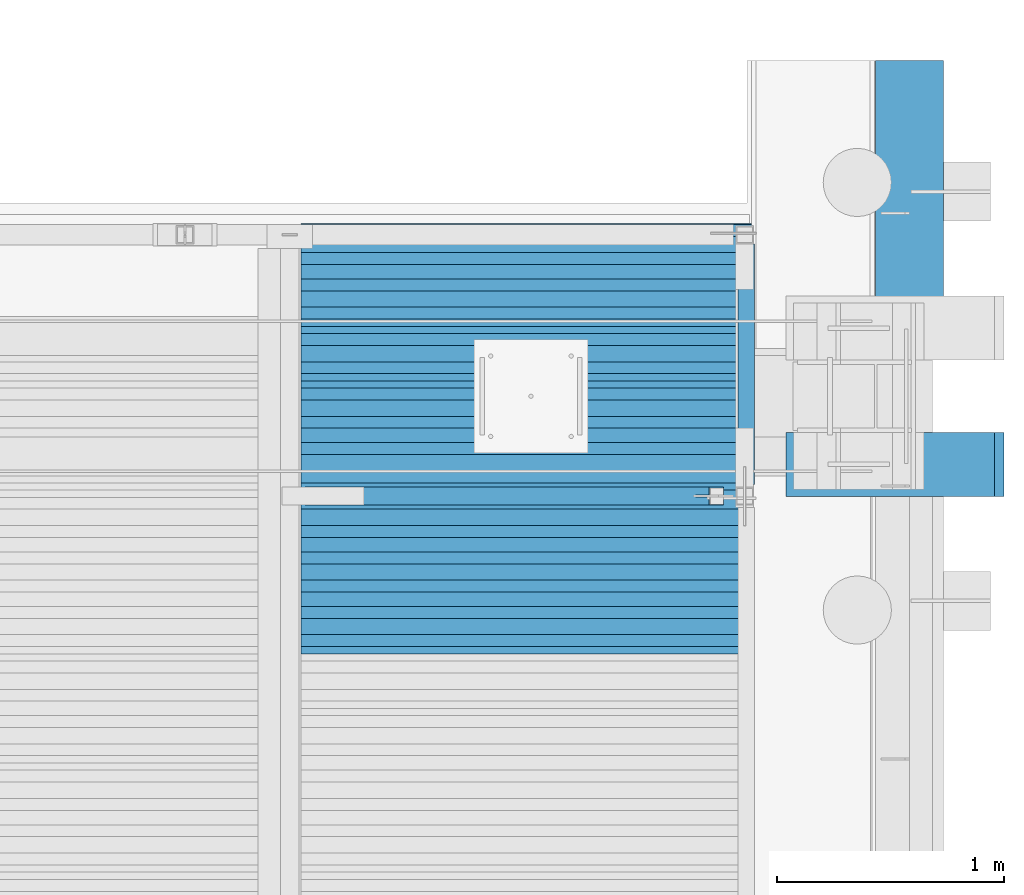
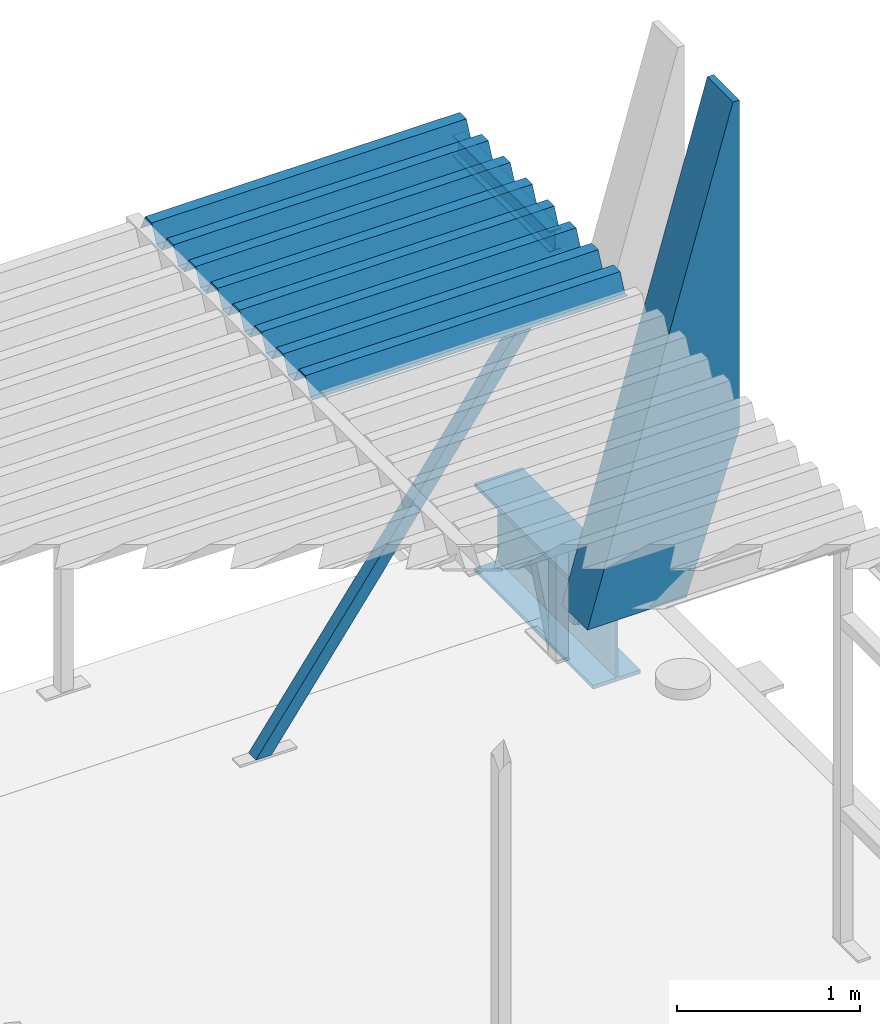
# One storey, part 14 of 30: 7 beams, 1 member.
"""IFC2X3 building model written with IfcOpenShell, lengths in millimetres."""

from ifc_helpers import new_model, entity, si_unit, converted_unit, derived_unit, direction, frame, origin_with_axes, place, context, subcontext, project, spatial, faceted_brep, material, type_object, element, save


model = new_model("IFC2X3")

# Units and contexts
model_context = context("Model", 3, precision=0.01, world=frame((0.0, 4.29681676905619e-09, 0.0)), true_north=direction((4.01073788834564e-13, 1.0)))
plan_context = context("Plan", 3, precision=0.01, world=frame((0.0, 4.29681676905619e-09, 0.0)), true_north=direction((4.01073788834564e-13, 1.0)))
body_context = subcontext(model_context, "Body", "Model", "MODEL_VIEW")
ifc_project = project(units=[converted_unit("PLANEANGLEUNIT", "DEGREE", entity("IfcPositiveLengthMeasure", 0.0174532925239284), si_unit("PLANEANGLEUNIT", "RADIAN"), dimensions=[0, 0, 0, 0, 0, 0, 0]), si_unit("AREAUNIT", "SQUARE_METRE"), si_unit("LENGTHUNIT", "METRE", prefix="MILLI"), si_unit("MASSUNIT", "GRAM", prefix="KILO"), si_unit("POWERUNIT", "WATT"), si_unit("PRESSUREUNIT", "PASCAL"), si_unit("FORCEUNIT", "NEWTON", prefix="KILO"), si_unit("ELECTRICVOLTAGEUNIT", "VOLT"), si_unit("ELECTRICCURRENTUNIT", "AMPERE"), si_unit("THERMODYNAMICTEMPERATUREUNIT", "DEGREE_CELSIUS"), si_unit("TIMEUNIT", "SECOND"), si_unit("VOLUMEUNIT", "CUBIC_METRE"), derived_unit("LINEARVELOCITYUNIT", [(si_unit("LENGTHUNIT", "METRE"), 1), (si_unit("TIMEUNIT", "SECOND"), -1)]), derived_unit("VOLUMETRICFLOWRATEUNIT", [(si_unit("VOLUMEUNIT", "CUBIC_METRE"), 1), (si_unit("TIMEUNIT", "SECOND"), -1)]), derived_unit("THERMALTRANSMITTANCEUNIT", [(si_unit("POWERUNIT", "WATT"), 1), (si_unit("THERMODYNAMICTEMPERATUREUNIT", "KELVIN"), -1), (si_unit("AREAUNIT", "SQUARE_METRE"), -1)]), derived_unit("SOUNDPRESSUREUNIT", [(si_unit("PRESSUREUNIT", "PASCAL"), 1)])], contexts=[model_context, plan_context])

# Site, building, storey
site_placement = place(None, frame((0.0, -4.29681676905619e-09, 0.0), z_axis=(0.0, 0.0, 1.0), x_axis=(1.0, 0.0, 0.0)))
site = spatial("IfcSite", under=ifc_project, at=site_placement, Name="Gardermoen", CompositionType="ELEMENT")
building_placement = place(site_placement, frame((0.0, 4.29681676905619e-09, 0.0), z_axis=(0.0, 0.0, 1.0), x_axis=(1.0, 0.0, 0.0)))
building = spatial("IfcBuilding", under=site, at=building_placement, Name="TI", CompositionType="ELEMENT")
storey_placement = place(building_placement, origin_with_axes())
storey = spatial("IfcBuildingStorey", under=building, at=storey_placement, Name="F", CompositionType="ELEMENT", Elevation=0.0)

# Beams
beam_type_1 = type_object("IfcBeamType", Name="HEA600", PredefinedType="NOTDEFINED")
beam_1_placement = place(storey_placement, frame((612014.999766, 706819.9991, 210385.0), z_axis=(0.0, 0.0, 1.0), x_axis=(0.0, -1.0, 0.0)))
element("IfcBeam", 1, at=beam_1_placement, inside=storey, type_object=beam_type_1, Name="STÅLBJELKE", ObjectType="HEA600", context=body_context, shape_type="Brep", body=[
    faceted_brep([(7344.49910000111, -150.0, -295.0), (7344.49910000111, -150.0, -270.0), (8640.00347499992, -150.0, -270.0), (8640.00347499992, -150.0, -295.0), (7344.49910000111, -6.5, -270.0), (8640.00347499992, -6.5, -270.0), (7344.49910000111, -6.5, 270.0), (8640.00347499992, -6.5, 270.0), (7344.49910000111, -150.0, 270.0), (8640.00347499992, -150.0, 270.0), (7344.49910000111, -150.0, 295.0), (8640.00347499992, -150.0, 295.0), (7344.49910000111, 150.0, 295.0), (8640.00347499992, 150.0, 295.0), (7344.49910000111, 150.0, 270.0), (8640.00347499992, 150.0, 270.0), (7344.49910000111, 6.5, 270.0), (8640.00347499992, 6.5, 270.0), (7344.49910000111, 6.5, -270.0), (8640.00347499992, 6.5, -270.0), (7344.49910000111, 150.0, -270.0), (8640.00347499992, 150.0, -270.0), (7344.49910000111, 150.0, -295.0), (8640.00347499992, 150.0, -295.0)], [[[0, 1, 2, 3]], [[1, 4, 5, 2]], [[4, 6, 7, 5]], [[6, 8, 9, 7]], [[8, 10, 11, 9]], [[10, 12, 13, 11]], [[12, 14, 15, 13]], [[14, 16, 17, 15]], [[16, 18, 19, 17]], [[18, 20, 21, 19]], [[22, 0, 3, 23]], [[21, 23, 3, 2, 5, 7, 9, 11, 13, 15, 17, 19]], [[20, 22, 23, 21]], [[22, 20, 18, 16, 14, 12, 10, 8, 6, 4, 1, 0]]], orient=[[False], [False], [False], [False], [False], [False], [False], [False], [False], [False], [False], [False], [False], [False]]),
])
ifc_material = material(Name="STEEL/S355J2H")
beam_type_2 = type_object("IfcBeamType", Name="IPE140", PredefinedType="NOTDEFINED")
beam_2_placement = place(storey_placement, frame((611296.990424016, 697561.018765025, 213629.99989163), z_axis=(0.0, 0.0, 1.0), x_axis=(0.0, 1.0, 0.0)))
element("IfcBeam", 2, at=beam_2_placement, inside=storey, type_object=beam_type_2, material=ifc_material, Name="STÅLBJELKE", ObjectType="IPE140", context=body_context, shape_type="Brep", body=[
    faceted_brep([(50.0000217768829, 36.5000000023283, -70.000000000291), (50.000021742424, 36.5000000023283, -63.099999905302), (1109.05627467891, 36.5000000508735, -63.0999999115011), (1109.05627467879, 36.5000000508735, -70.0000000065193), (50.0000095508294, 2.34999990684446, -63.099999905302), (1109.05627468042, 2.34999995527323, -63.0999999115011), (50.000008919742, 2.34999990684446, 63.0999999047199), (1109.056274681, 2.34999995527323, 63.0999998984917), (50.0000211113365, 36.5000000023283, 63.0999999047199), (1109.05627467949, 36.5000000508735, 63.0999998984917), (50.0000210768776, 36.5000000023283, 69.999999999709), (1109.05627467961, 36.5000000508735, 69.9999999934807), (49.9999950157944, -36.4999999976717, 69.999999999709), (1109.05627468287, -36.4999999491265, 69.9999999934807), (49.9999950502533, -36.4999999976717, 63.0999999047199), (1109.05627468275, -36.4999999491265, 63.0999998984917), (50.0000072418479, -2.34999990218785, 63.0999999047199), (1109.05627468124, -2.34999985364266, 63.0999998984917), (50.0000078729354, -2.34999990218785, -63.099999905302), (1109.05627468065, -2.34999985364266, -63.0999999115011), (49.9999956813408, -36.4999999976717, -63.099999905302), (1109.05627468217, -36.4999999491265, -63.0999999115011), (49.9999957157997, -36.4999999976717, -70.000000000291), (1109.05627468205, -36.4999999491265, -70.0000000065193)], [[[0, 1, 2, 3]], [[1, 4, 5, 2]], [[4, 6, 7, 5]], [[6, 8, 9, 7]], [[8, 10, 11, 9]], [[10, 12, 13, 11]], [[12, 14, 15, 13]], [[14, 16, 17, 15]], [[16, 18, 19, 17]], [[18, 20, 21, 19]], [[20, 22, 23, 21]], [[22, 0, 3, 23]], [[5, 7, 9, 11, 13, 15, 17, 19, 21, 23, 3, 2]], [[22, 20, 18, 16, 14, 12, 10, 8, 6, 4, 1, 0]]]),
])
beam_type_3 = type_object("IfcBeamType", Name="PL280*4267", PredefinedType="NOTDEFINED")
beam_3_placement = place(storey_placement, frame((612820.802696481, 697700.000136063, 215717.175006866), z_axis=(0.963909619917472, 0.0, -0.266229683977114), x_axis=(-0.266229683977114, 0.0, -0.963909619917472)))
element("IfcBeam", 3, at=beam_3_placement, inside=storey, type_object=beam_type_3, Name="TREBJELKE", ObjectType="PL280*4267", context=body_context, shape_type="Brep", body=[
    faceted_brep([(4792.80583313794, -12.5000000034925, 100.95441075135), (4710.7201842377, -12.5000000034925, 398.1532258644), (4710.7201842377, 12.4999999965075, 398.1532258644), (4792.80583313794, 12.4999999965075, 100.95441075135), (4829.864600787, 12.4999999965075, 100.27474271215), (4711.92526248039, 12.4999999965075, 398.486065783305), (4747.68035783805, 12.4999999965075, 397.830498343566), (4766.6712470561, 12.4999999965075, 383.098146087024), (4840.86892426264, 12.4999999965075, 114.458507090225), (4711.92526248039, -12.5000000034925, 398.486065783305), (4766.6712470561, -12.5000000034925, 383.098146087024), (4747.68035783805, -12.5000000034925, 397.830498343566), (4829.864600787, -12.5000000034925, 100.27474271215), (4840.86892426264, -12.5000000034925, 114.458507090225), (4752.02041002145, 140.0, 436.142898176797), (4752.02041002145, -119.957864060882, 436.142898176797), (4723.17066401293, -119.957864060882, 540.59611154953), (4723.17066401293, 140.0, 540.59611154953), (4741.01608682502, 140.0, 421.959149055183), (4741.01608682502, -119.957864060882, 421.959149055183), (4450.70027232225, 140.0, 427.280864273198), (4450.70027232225, -119.957864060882, 427.280864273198), (4450.26059581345, 140.0, 403.28367110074), (4450.26059581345, -119.957864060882, 403.28367110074), (3684.01844837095, -140.0, 612.082395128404), (3684.01844837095, 140.0, 612.082395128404), (4740.76416020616, 140.0, 555.776550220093), (4740.76416020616, -140.0, 555.776550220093), (1577.43099277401, -140.0, -12.4926032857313), (1566.46293233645, -140.0, 27.2182914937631), (4906.70556646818, -140.0, -45.0306626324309), (1577.43099277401, 140.0, -12.4926032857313), (4906.70556646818, 140.0, -45.0306626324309), (4743.41268607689, -119.957864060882, 546.186887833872), (4901.81966068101, -119.957864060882, -27.340501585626), (4901.81959455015, 140.0, -27.3405198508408), (4743.41279218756, 140.0, 546.186917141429), (4536.10914081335, 140.0, 81.6571794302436), (4536.10914081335, -119.957864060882, 81.6571794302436), (4536.5483571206, -119.957864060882, 105.654243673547), (4536.5483571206, 140.0, 105.654243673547), (4836.52784072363, 140.0, 76.1497930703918), (4836.52784072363, -119.957864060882, 76.1497930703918), (4855.51874527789, 140.0, 61.4174449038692), (4855.51874527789, -119.957864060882, 61.4174449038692), (4881.5776687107, 140.0, -32.9313013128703), (4881.5776687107, -119.957864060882, -32.9313013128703), (1566.46293233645, 140.0, 27.2182914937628), (4829.86460078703, 140.0, 100.27474271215), (4840.86892426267, 140.0, 114.458507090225), (4766.67124705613, 140.0, 383.098146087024), (4747.68035783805, 140.0, 397.830498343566), (4747.68035783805, -119.957864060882, 397.830498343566), (4766.67124705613, -119.957864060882, 383.098146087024), (4840.86892426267, -119.957864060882, 114.458507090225), (4829.86460078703, -119.957864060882, 100.27474271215)], [[[0, 1, 2, 3]], [[4, 3, 2, 5, 6, 7, 8]], [[5, 2, 1, 9]], [[10, 11, 9, 1, 0, 12, 13]], [[14, 15, 16, 17]], [[18, 19, 15, 14]], [[20, 21, 19, 18]], [[22, 23, 21, 20]], [[24, 25, 26, 27]], [[28, 29, 24, 27, 30]], [[31, 28, 30, 32]], [[33, 34, 35, 32, 30, 27, 26, 36]], [[37, 38, 39, 40]], [[41, 42, 38, 37]], [[43, 44, 42, 41]], [[45, 46, 44, 43]], [[34, 46, 45, 35]], [[25, 47, 31, 32, 35, 45, 43, 41, 37, 40, 48, 49, 50, 51, 22, 20, 18, 14, 17, 36, 26]], [[36, 17, 16, 33]], [[33, 16, 15, 19, 21, 23, 52, 53, 54, 55, 39, 38, 42, 44, 46, 34]], [[10, 13, 54, 53]], [[11, 10, 53, 52]], [[9, 11, 52, 23, 22, 51, 6, 5]], [[7, 6, 51, 50]], [[8, 7, 50, 49]], [[4, 8, 49, 48]], [[12, 0, 3, 4, 48, 40, 39, 55]], [[13, 12, 55, 54]], [[47, 25, 24, 29]], [[29, 28, 31, 47]]], orient=[[False], [False], [False], [False], [False], [False], [False], [False], [False], [False], [False], [False], [False], [False], [False], [False], [False], [False], [False], [False], [False], [False], [False], [False], [False], [False], [False], [False], [False], [False]]),
])
beam_type_4 = type_object("IfcBeamType", Name="PLANNJA111", PredefinedType="NOTDEFINED")
beam_4_placement = place(storey_placement, frame((609339.642258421, 697227.496751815, 213755.499891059), z_axis=(0.0, 0.0, 1.0), x_axis=(1.0, 0.0, 0.0)))
element("IfcBeam", 4, at=beam_4_placement, inside=storey, type_object=beam_type_4, material=ifc_material, Name="STÅLBJELKE", ObjectType="PLANNJA111", context=body_context, shape_type="Brep", body=[
    faceted_brep([(-7.79982656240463e-09, 360.000000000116, -54.75), (-7.21774995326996e-09, 328.133911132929, -54.75), (1986.49967689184, 328.133911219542, -54.7499999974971), (1986.49967689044, 360.000000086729, -54.7499999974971), (-2.44472175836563e-09, 276.000000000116, 55.75), (1986.49967690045, 276.000000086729, 55.7500000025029), (-1.28056854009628e-09, 204.000000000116, 55.75), (1986.49967690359, 204.000000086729, 55.7500000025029), (-4.42378222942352e-09, 151.866088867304, -54.75), (1986.49967689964, 151.866088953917, -54.7499999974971), (-3.37604433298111e-09, 88.1339111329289, -54.75), (1986.49967690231, 88.1339112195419, -54.7499999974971), (1.39698386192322e-09, 36.0000000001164, 55.75), (1986.49967691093, 36.0000000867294, 55.7500000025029), (2.56113708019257e-09, -35.9999999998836, 55.75), (1986.49967691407, -35.9999999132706, 55.7500000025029), (-5.82076609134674e-10, -88.1339111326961, -54.75), (1986.49967691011, -88.1339110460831, -54.7499999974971), (4.65661287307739e-10, -151.866088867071, -54.75), (1986.49967691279, -151.866088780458, -54.7499999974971), (5.23868948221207e-09, -203.999999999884, 55.75), (1986.4996769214, -203.999999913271, 55.7500000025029), (6.40284270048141e-09, -275.999999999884, 55.75), (1986.49967692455, -275.999999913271, 55.7500000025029), (3.25962901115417e-09, -328.133911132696, -54.75), (1986.49967692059, -328.133911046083, -54.7499999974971), (3.72529029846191e-09, -359.999999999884, -54.75), (1986.49967692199, -359.999999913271, -54.7499999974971), (3.72529029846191e-09, -359.999999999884, -55.75), (1986.49967692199, -359.999999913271, -55.7499999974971), (3.14321368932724e-09, -327.499999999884, -55.75), (1986.49967692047, -327.499999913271, -55.7499999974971), (6.40284270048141e-09, -275.366088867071, 54.75), (1986.49967692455, -275.366088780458, 54.7500000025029), (5.23868948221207e-09, -204.633911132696, 54.75), (1986.4996769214, -204.633911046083, 54.7500000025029), (3.49245965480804e-10, -152.499999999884, -55.75), (1986.49967691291, -152.499999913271, -55.7499999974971), (-6.98491930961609e-10, -87.4999999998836, -55.75), (1986.49967691, -87.4999999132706, -55.7499999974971), (2.56113708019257e-09, -35.3660888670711, 54.75), (1986.49967691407, -35.3660887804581, 54.7500000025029), (1.39698386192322e-09, 35.3660888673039, 54.75), (1986.49967691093, 35.3660889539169, 54.7500000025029), (-3.49245965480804e-09, 87.5000000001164, -55.75), (1986.49967690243, 87.5000000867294, -55.7499999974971), (-4.54019755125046e-09, 152.500000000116, -55.75), (1986.49967689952, 152.500000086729, -55.7499999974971), (-1.28056854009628e-09, 204.633911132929, 54.75), (1986.49967690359, 204.633911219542, 54.7500000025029), (-2.44472175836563e-09, 275.366088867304, 54.75), (1986.49967690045, 275.366088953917, 54.7500000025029), (-7.33416527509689e-09, 327.500000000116, -55.75), (1986.49967689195, 327.500000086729, -55.7499999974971), (-7.79982656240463e-09, 360.000000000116, -55.75), (1986.49967689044, 360.000000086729, -55.7499999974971)], [[[0, 1, 2, 3]], [[1, 4, 5, 2]], [[4, 6, 7, 5]], [[6, 8, 9, 7]], [[8, 10, 11, 9]], [[10, 12, 13, 11]], [[12, 14, 15, 13]], [[14, 16, 17, 15]], [[16, 18, 19, 17]], [[18, 20, 21, 19]], [[20, 22, 23, 21]], [[22, 24, 25, 23]], [[24, 26, 27, 25]], [[26, 28, 29, 27]], [[28, 30, 31, 29]], [[30, 32, 33, 31]], [[32, 34, 35, 33]], [[34, 36, 37, 35]], [[36, 38, 39, 37]], [[38, 40, 41, 39]], [[40, 42, 43, 41]], [[42, 44, 45, 43]], [[44, 46, 47, 45]], [[46, 48, 49, 47]], [[48, 50, 51, 49]], [[50, 52, 53, 51]], [[52, 54, 55, 53]], [[54, 0, 3, 55]], [[5, 7, 9, 11, 13, 15, 17, 19, 21, 23, 25, 27, 29, 31, 33, 35, 37, 39, 41, 43, 45, 47, 49, 51, 53, 55, 3, 2]], [[54, 52, 50, 48, 46, 44, 42, 40, 38, 36, 34, 32, 30, 28, 26, 24, 22, 20, 18, 16, 14, 12, 10, 8, 6, 4, 1, 0]]]),
])
beam_5_placement = place(storey_placement, frame((609339.642363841, 697707.496751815, 213755.499891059), z_axis=(0.0, 0.0, 1.0), x_axis=(1.0, 0.0, 0.0)))
element("IfcBeam", 5, at=beam_5_placement, inside=storey, type_object=beam_type_4, material=ifc_material, Name="STÅLBJELKE", ObjectType="PLANNJA111", context=body_context, shape_type="Brep", body=[
    faceted_brep([(-7.79982656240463e-09, 360.000000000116, -54.75), (-7.21774995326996e-09, 328.133911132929, -54.75), (1986.49967689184, 328.133911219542, -54.7499999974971), (1986.49967689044, 360.000000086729, -54.7499999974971), (-2.44472175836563e-09, 276.000000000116, 55.75), (1986.49967690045, 276.000000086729, 55.7500000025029), (-1.28056854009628e-09, 204.000000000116, 55.75), (1986.49967690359, 204.000000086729, 55.7500000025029), (-4.42378222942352e-09, 151.866088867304, -54.75), (1986.49967689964, 151.866088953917, -54.7499999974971), (-3.37604433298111e-09, 88.1339111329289, -54.75), (1986.49967690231, 88.1339112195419, -54.7499999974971), (1.39698386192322e-09, 36.0000000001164, 55.75), (1986.49967691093, 36.0000000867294, 55.7500000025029), (2.56113708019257e-09, -35.9999999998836, 55.75), (1986.49967691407, -35.9999999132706, 55.7500000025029), (-5.82076609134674e-10, -88.1339111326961, -54.75), (1986.49967691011, -88.1339110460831, -54.7499999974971), (4.65661287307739e-10, -151.866088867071, -54.75), (1986.49967691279, -151.866088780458, -54.7499999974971), (5.23868948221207e-09, -203.999999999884, 55.75), (1986.4996769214, -203.999999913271, 55.7500000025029), (6.40284270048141e-09, -275.999999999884, 55.75), (1986.49967692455, -275.999999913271, 55.7500000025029), (3.25962901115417e-09, -328.133911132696, -54.75), (1986.49967692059, -328.133911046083, -54.7499999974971), (3.72529029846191e-09, -359.999999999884, -54.75), (1986.49967692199, -359.999999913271, -54.7499999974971), (3.72529029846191e-09, -359.999999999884, -55.75), (1986.49967692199, -359.999999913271, -55.7499999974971), (3.14321368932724e-09, -327.499999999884, -55.75), (1986.49967692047, -327.499999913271, -55.7499999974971), (6.40284270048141e-09, -275.366088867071, 54.75), (1986.49967692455, -275.366088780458, 54.7500000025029), (5.23868948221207e-09, -204.633911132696, 54.75), (1986.4996769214, -204.633911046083, 54.7500000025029), (3.49245965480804e-10, -152.499999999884, -55.75), (1986.49967691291, -152.499999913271, -55.7499999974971), (-6.98491930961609e-10, -87.4999999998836, -55.75), (1986.49967691, -87.4999999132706, -55.7499999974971), (2.56113708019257e-09, -35.3660888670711, 54.75), (1986.49967691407, -35.3660887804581, 54.7500000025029), (1.39698386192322e-09, 35.3660888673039, 54.75), (1986.49967691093, 35.3660889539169, 54.7500000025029), (-3.49245965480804e-09, 87.5000000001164, -55.75), (1986.49967690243, 87.5000000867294, -55.7499999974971), (-4.54019755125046e-09, 152.500000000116, -55.75), (1986.49967689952, 152.500000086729, -55.7499999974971), (-1.28056854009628e-09, 204.633911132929, 54.75), (1986.49967690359, 204.633911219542, 54.7500000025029), (-2.44472175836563e-09, 275.366088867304, 54.75), (1986.49967690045, 275.366088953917, 54.7500000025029), (-7.33416527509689e-09, 327.500000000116, -55.75), (1986.49967689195, 327.500000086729, -55.7499999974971), (-7.79982656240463e-09, 360.000000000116, -55.75), (1986.49967689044, 360.000000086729, -55.7499999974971)], [[[0, 1, 2, 3]], [[1, 4, 5, 2]], [[4, 6, 7, 5]], [[6, 8, 9, 7]], [[8, 10, 11, 9]], [[10, 12, 13, 11]], [[12, 14, 15, 13]], [[14, 16, 17, 15]], [[16, 18, 19, 17]], [[18, 20, 21, 19]], [[20, 22, 23, 21]], [[22, 24, 25, 23]], [[24, 26, 27, 25]], [[26, 28, 29, 27]], [[28, 30, 31, 29]], [[30, 32, 33, 31]], [[32, 34, 35, 33]], [[34, 36, 37, 35]], [[36, 38, 39, 37]], [[38, 40, 41, 39]], [[40, 42, 43, 41]], [[42, 44, 45, 43]], [[44, 46, 47, 45]], [[46, 48, 49, 47]], [[48, 50, 51, 49]], [[50, 52, 53, 51]], [[52, 54, 55, 53]], [[54, 0, 3, 55]], [[5, 7, 9, 11, 13, 15, 17, 19, 21, 23, 25, 27, 29, 31, 33, 35, 37, 39, 41, 43, 45, 47, 49, 51, 53, 55, 3, 2]], [[54, 52, 50, 48, 46, 44, 42, 40, 38, 36, 34, 32, 30, 28, 26, 24, 22, 20, 18, 16, 14, 12, 10, 8, 6, 4, 1, 0]]]),
])
beam_6_placement = place(storey_placement, frame((609339.642469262, 698187.496751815, 213755.499891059), z_axis=(0.0, 0.0, 1.0), x_axis=(1.0, 0.0, 0.0)))
element("IfcBeam", 6, at=beam_6_placement, inside=storey, type_object=beam_type_4, material=ifc_material, Name="STÅLBJELKE", ObjectType="PLANNJA111", context=body_context, shape_type="Brep", body=[
    faceted_brep([(-7.79982656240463e-09, 360.000000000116, -54.75), (-7.21774995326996e-09, 328.133911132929, -54.75), (1986.49967689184, 328.133911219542, -54.7499999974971), (1986.49967689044, 360.000000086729, -54.7499999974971), (-2.44472175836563e-09, 276.000000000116, 55.75), (1986.49967690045, 276.000000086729, 55.7500000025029), (-1.28056854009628e-09, 204.000000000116, 55.75), (1986.49967690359, 204.000000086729, 55.7500000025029), (-4.42378222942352e-09, 151.866088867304, -54.75), (1986.49967689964, 151.866088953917, -54.7499999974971), (-3.37604433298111e-09, 88.1339111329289, -54.75), (1986.49967690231, 88.1339112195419, -54.7499999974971), (1.39698386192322e-09, 36.0000000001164, 55.75), (1986.49967691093, 36.0000000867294, 55.7500000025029), (2.56113708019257e-09, -35.9999999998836, 55.75), (1986.49967691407, -35.9999999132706, 55.7500000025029), (-5.82076609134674e-10, -88.1339111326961, -54.75), (1986.49967691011, -88.1339110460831, -54.7499999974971), (4.65661287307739e-10, -151.866088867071, -54.75), (1986.49967691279, -151.866088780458, -54.7499999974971), (5.23868948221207e-09, -203.999999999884, 55.75), (1986.4996769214, -203.999999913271, 55.7500000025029), (6.40284270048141e-09, -275.999999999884, 55.75), (1986.49967692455, -275.999999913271, 55.7500000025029), (3.25962901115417e-09, -328.133911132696, -54.75), (1986.49967692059, -328.133911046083, -54.7499999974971), (3.72529029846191e-09, -359.999999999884, -54.75), (1986.49967692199, -359.999999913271, -54.7499999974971), (3.72529029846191e-09, -359.999999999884, -55.75), (1986.49967692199, -359.999999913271, -55.7499999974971), (3.14321368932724e-09, -327.499999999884, -55.75), (1986.49967692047, -327.499999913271, -55.7499999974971), (6.40284270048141e-09, -275.366088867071, 54.75), (1986.49967692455, -275.366088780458, 54.7500000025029), (5.23868948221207e-09, -204.633911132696, 54.75), (1986.4996769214, -204.633911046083, 54.7500000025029), (3.49245965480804e-10, -152.499999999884, -55.75), (1986.49967691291, -152.499999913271, -55.7499999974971), (-6.98491930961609e-10, -87.4999999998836, -55.75), (1986.49967691, -87.4999999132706, -55.7499999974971), (2.56113708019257e-09, -35.3660888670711, 54.75), (1986.49967691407, -35.3660887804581, 54.7500000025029), (1.39698386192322e-09, 35.3660888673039, 54.75), (1986.49967691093, 35.3660889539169, 54.7500000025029), (-3.49245965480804e-09, 87.5000000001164, -55.75), (1986.49967690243, 87.5000000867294, -55.7499999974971), (-4.54019755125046e-09, 152.500000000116, -55.75), (1986.49967689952, 152.500000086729, -55.7499999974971), (-1.28056854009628e-09, 204.633911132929, 54.75), (1986.49967690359, 204.633911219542, 54.7500000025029), (-2.44472175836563e-09, 275.366088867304, 54.75), (1986.49967690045, 275.366088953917, 54.7500000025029), (-7.33416527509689e-09, 327.500000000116, -55.75), (1986.49967689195, 327.500000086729, -55.7499999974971), (-7.79982656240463e-09, 360.000000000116, -55.75), (1986.49967689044, 360.000000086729, -55.7499999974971)], [[[0, 1, 2, 3]], [[1, 4, 5, 2]], [[4, 6, 7, 5]], [[6, 8, 9, 7]], [[8, 10, 11, 9]], [[10, 12, 13, 11]], [[12, 14, 15, 13]], [[14, 16, 17, 15]], [[16, 18, 19, 17]], [[18, 20, 21, 19]], [[20, 22, 23, 21]], [[22, 24, 25, 23]], [[24, 26, 27, 25]], [[26, 28, 29, 27]], [[28, 30, 31, 29]], [[30, 32, 33, 31]], [[32, 34, 35, 33]], [[34, 36, 37, 35]], [[36, 38, 39, 37]], [[38, 40, 41, 39]], [[40, 42, 43, 41]], [[42, 44, 45, 43]], [[44, 46, 47, 45]], [[46, 48, 49, 47]], [[48, 50, 51, 49]], [[50, 52, 53, 51]], [[52, 54, 55, 53]], [[54, 0, 3, 55]], [[5, 7, 9, 11, 13, 15, 17, 19, 21, 23, 25, 27, 29, 31, 33, 35, 37, 39, 41, 43, 45, 47, 49, 51, 53, 55, 3, 2]], [[54, 52, 50, 48, 46, 44, 42, 40, 38, 36, 34, 32, 30, 28, 26, 24, 22, 20, 18, 16, 14, 12, 10, 8, 6, 4, 1, 0]]]),
])
beam_7_placement = place(storey_placement, frame((609339.642575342, 698667.496751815, 213755.499891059), z_axis=(0.0, 0.0, 1.0), x_axis=(1.0, 0.0, 0.0)))
element("IfcBeam", 7, at=beam_7_placement, inside=storey, type_object=beam_type_4, material=ifc_material, Name="STÅLBJELKE", ObjectType="PLANNJA111", context=body_context, shape_type="Brep", body=[
    faceted_brep([(1.39698386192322e-09, 35.3660888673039, 54.75), (-3.49245965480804e-09, 87.5000000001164, -55.75), (1986.49935998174, 87.5000000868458, -55.7499999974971), (1986.49935999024, 35.3660889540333, 54.7500000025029), (2.56113708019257e-09, -35.3660888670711, 54.75), (1986.49935999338, -35.3660887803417, 54.7500000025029), (-6.98491930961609e-10, -87.4999999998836, -55.75), (1986.49935998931, -87.4999999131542, -55.7499999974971), (3.49245965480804e-10, -152.499999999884, -55.75), (1986.49935999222, -152.499999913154, -55.7499999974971), (5.23868948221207e-09, -204.633911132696, 54.75), (1986.49936000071, -204.633911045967, 54.7500000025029), (6.40284270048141e-09, -275.366088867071, 54.75), (1986.49936000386, -275.366088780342, 54.7500000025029), (3.14321368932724e-09, -327.499999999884, -55.75), (1986.49935999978, -327.499999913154, -55.7499999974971), (3.72529029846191e-09, -359.999999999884, -55.75), (1986.4993600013, -359.999999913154, -55.7499999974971), (3.72529029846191e-09, -359.999999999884, -54.75), (1986.4993600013, -359.999999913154, -54.7499999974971), (3.25962901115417e-09, -328.133911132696, -54.75), (1986.4993599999, -328.133911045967, -54.7499999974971), (6.40284270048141e-09, -275.999999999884, 55.75), (1986.49936000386, -275.999999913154, 55.7500000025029), (5.23868948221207e-09, -203.999999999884, 55.75), (1986.49936000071, -203.999999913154, 55.7500000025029), (4.65661287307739e-10, -151.866088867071, -54.75), (1986.4993599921, -151.866088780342, -54.7499999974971), (-5.82076609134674e-10, -88.1339111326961, -54.75), (1986.49935998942, -88.1339110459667, -54.7499999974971), (2.56113708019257e-09, -35.9999999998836, 55.75), (1986.49935999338, -35.9999999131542, 55.7500000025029), (1.39698386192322e-09, 36.0000000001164, 55.75), (1986.49935999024, 36.0000000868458, 55.7500000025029), (-3.37604433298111e-09, 88.1339111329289, -54.75), (1986.49935998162, 88.1339112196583, -54.7499999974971), (1986.49935998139, 92.5124043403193, -54.7499999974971), (-7.21774995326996e-09, 92.5119573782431, -54.7499999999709), (-7.21774995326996e-09, 92.5119573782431, -55.7499999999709), (1986.49935998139, 92.5124043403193, -55.7499999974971)], [[[0, 1, 2, 3]], [[4, 0, 3, 5]], [[6, 4, 5, 7]], [[8, 6, 7, 9]], [[10, 8, 9, 11]], [[12, 10, 11, 13]], [[14, 12, 13, 15]], [[16, 14, 15, 17]], [[18, 16, 17, 19]], [[20, 18, 19, 21]], [[22, 20, 21, 23]], [[24, 22, 23, 25]], [[26, 24, 25, 27]], [[28, 26, 27, 29]], [[30, 28, 29, 31]], [[32, 30, 31, 33]], [[34, 32, 33, 35]], [[34, 35, 36, 37]], [[1, 0, 4, 6, 8, 10, 12, 14, 16, 18, 20, 22, 24, 26, 28, 30, 32, 34, 37, 38]], [[2, 1, 38, 39]], [[35, 33, 31, 29, 27, 25, 23, 21, 19, 17, 15, 13, 11, 9, 7, 5, 3, 2, 39, 36]], [[38, 37, 36, 39]]]),
])

# Member
member_type = type_object("IfcMemberType", Name="RHS80*8", PredefinedType="NOTDEFINED")
member_placement = place(storey_placement, frame((609215.883583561, 697561.020339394, 210632.601119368), z_axis=(-0.811178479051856, -1.01816304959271e-06, 0.584798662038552), x_axis=(0.584798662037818, 9.42000014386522e-07, 0.811178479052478)))
element("IfcMember", 8, at=member_placement, inside=storey, type_object=member_type, material=ifc_material, Name="STÅLDIAGONAL", ObjectType="RHS80*8", context=body_context, shape_type="Brep", body=[
    faceted_brep([(3332.5033559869, 5.00000017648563, 40.0000001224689), (3232.50335603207, 5.00000017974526, 40.0000001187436), (3232.50335603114, 5.00000018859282, 32.0000001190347), (3332.50335598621, 5.00000018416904, 32.00000012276), (3232.50335603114, -4.99999982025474, 40.0000001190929), (3232.50335602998, -4.99999981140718, 32.0000001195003), (3332.50335598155, -4.9999998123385, 40.0000001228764), (3332.50335598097, -4.99999980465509, 32.0000001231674), (3332.50335598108, 5.00000024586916, -31.9999998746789), (3232.50335602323, 5.00000025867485, -31.999999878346), (3232.50335602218, 5.00000026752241, -39.9999998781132), (3332.5033559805, 5.00000025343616, -39.9999998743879), (3232.50335602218, -4.99999974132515, -31.999999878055), (3232.50335602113, -4.99999973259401, -39.9999998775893), (3332.50335597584, -4.99999974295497, -31.9999998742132), (3332.50335597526, -4.99999973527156, -39.9999998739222), (300.413056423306, 32.0000000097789, 32.0000000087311), (346.552241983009, 32.0000000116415, -31.9999999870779), (3332.50335599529, 32.0000001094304, -31.9999998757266), (3332.50335600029, 32.0000001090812, 32.0000001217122), (3332.50335596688, -31.9999998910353, 32.0000001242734), (300.413042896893, -31.9999999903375, 32.0000000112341), (346.552228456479, -31.9999999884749, -31.9999999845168), (3332.50335596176, -31.999999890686, -31.9999998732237), (352.319624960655, -39.9999999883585, -39.9999999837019), (294.645643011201, -39.9999999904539, 40.000000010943), (294.645659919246, 40.0000000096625, 40.0000000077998), (352.3196418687, 40.0000000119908, -39.9999999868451), (3332.50335600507, 40.0000001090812, 40.0000001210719), (3332.50335599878, 40.0000001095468, -39.9999998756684), (3332.50335595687, -39.999999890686, -39.9999998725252), (3332.50335596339, -39.9999998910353, 40.0000001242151)], [[[0, 1, 2, 3]], [[4, 5, 2, 1]], [[6, 7, 5, 4]], [[8, 9, 10, 11]], [[12, 13, 10, 9]], [[14, 15, 13, 12]], [[16, 17, 18, 19]], [[20, 21, 16, 19, 3, 2, 5, 7]], [[22, 21, 20, 23]], [[9, 8, 18, 17, 22, 23, 14, 12]], [[24, 25, 26, 27], [16, 21, 22, 17]], [[27, 26, 28, 29]], [[19, 18, 8, 11, 29, 28, 0, 3]], [[30, 24, 27, 29, 11, 10, 13, 15]], [[25, 24, 30, 31]], [[1, 0, 28, 26, 25, 31, 6, 4]], [[31, 30, 15, 14, 23, 20, 7, 6]]]),
])

save(model, "model.ifc")
